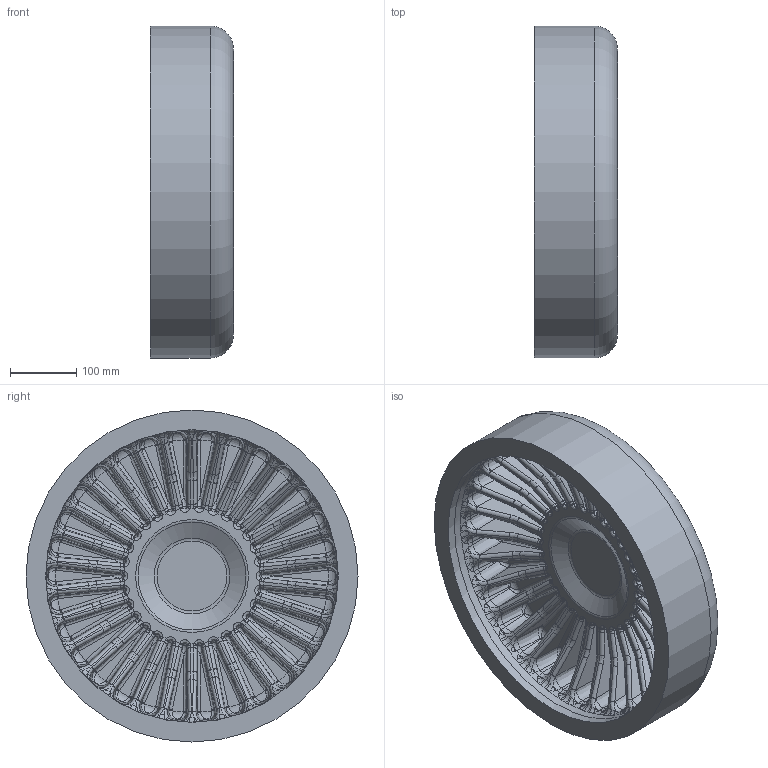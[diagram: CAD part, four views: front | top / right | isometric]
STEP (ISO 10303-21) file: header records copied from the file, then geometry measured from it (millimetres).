
FILE_DESCRIPTION(/* description */ ('Unknown'),/* implementation_level */ '2;1');
FILE_NAME(/* name */ 'CAP500B',/* time_stamp */ '2022-05-16T10:19:00+02:00',/* author */ ('Unknown'),/* organization */ ('Unknown'),/* preprocessor_version */ 'ST-DEVELOPER v18.1',/* originating_system */ 'Solid Edge',/* authorisation */ 'Unknown');
FILE_SCHEMA (('AUTOMOTIVE_DESIGN {1 0 10303 214 3 1 1}'));
Products named in the file (1): CAP500B
Bounding box: 125 x 500 x 500 mm (x, y, z)
Volume: 12028697.7 mm3; surface area: 839996.7 mm2
Topology: 1 solids, 1 shells, 1451 faces, 3377 edges, 1840 vertices
Faces by surface type: bspline 960, cylinder 212, plane 154, torus 64, cone 61
Full cylindrical faces by diameter (mm): 440.6 x1, 500 x1
Entity records: 61224 total; most frequent: CARTESIAN_POINT 35640, ORIENTED_EDGE 6558, DIRECTION 3762, EDGE_CURVE 3279, VERTEX_POINT 1839, AXIS2_PLACEMENT_3D 1671, B_SPLINE_CURVE_WITH_KNOTS 1560, EDGE_LOOP 1460
